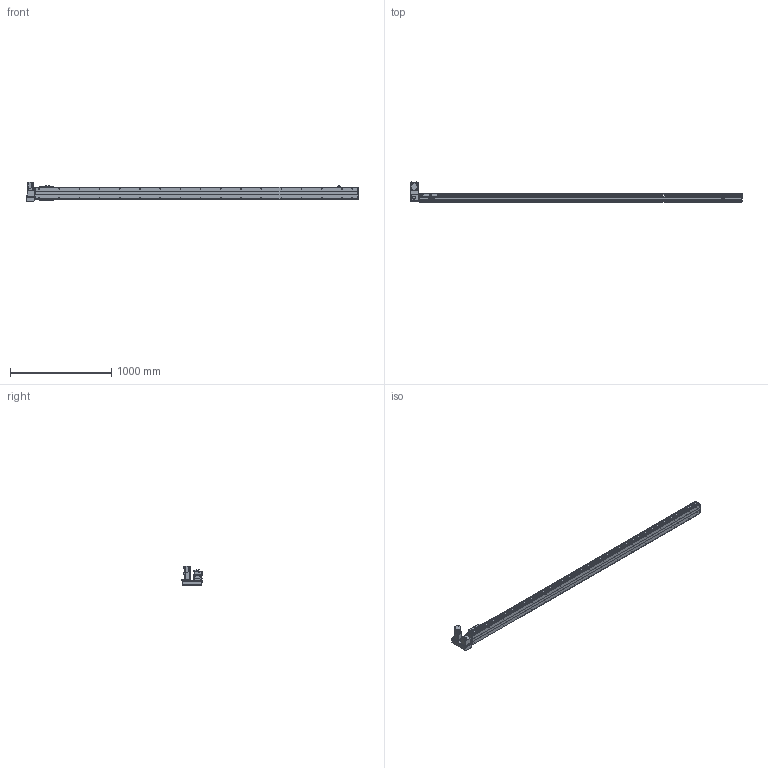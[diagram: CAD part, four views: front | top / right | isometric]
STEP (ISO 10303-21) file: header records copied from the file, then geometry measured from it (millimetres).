
FILE_DESCRIPTION( ( 'STEP AP214' ), '1' );
FILE_NAME( 'x:/temp/worker_27/temp/exporttempdir_6708_138_X8bGM/format_0/PBS120-P40-S2900-LU-T40-C1-N(0).stp', '2022-06-06T00:34:36', ( 'License CC BY-ND 4.0' ), ( 'CADENAS' ), ' ', 'PARTsolutions', ' ' );
FILE_SCHEMA( ( 'AUTOMOTIVE_DESIGN { 1 0 10303 214 1 1 1 1 }' ) );
Length unit declared in the file: millimetre
Products named in the file (7): PBS120-P40-S2900-LU-T40-C1-N(0); _PBS120-S2900()_body; _PBS120T-LU_motors; _T40-p1; _PBS120_sliser; _PBS120_plant; _PBS120_sensor
Assembly tree (8 placements, depth 2):
  PBS120-P40-S2900-LU-T40-C1-N(0)
    _PBS120-S2900()_body
    _PBS120T-LU_motors
    _T40-p1
    _PBS120_sliser
    _PBS120_plant
    _PBS120_sensor  x3
Bounding box: 3286 x 198 x 189.7 mm (x, y, z)
Volume: 12145598.4 mm3; surface area: 2528331 mm2
Topology: 8 solids, 8 shells, 882 faces, 2246 edges, 1441 vertices
Faces by surface type: plane 567, cylinder 247, cone 66, torus 2
Full cylindrical faces by diameter (mm): 2.459 x6, 3.242 x4, 4 x2, 4.134 x4, 4.5 x10, 4.917 x38, 5.5 x11, 6 x2, 6.6 x1, 7 x2, 8.5 x4, 9 x4, 12 x1, 14 x1, 30 x2, 40 x1, 50 x2
Entity records: 28836 total; most frequent: DIRECTION 3956, CARTESIAN_POINT 3839, ORIENTED_EDGE 3610, EDGE_CURVE 1805, AXIS2_PLACEMENT_3D 1364, VERTEX_POINT 1247, LINE 1228, VECTOR 1228
